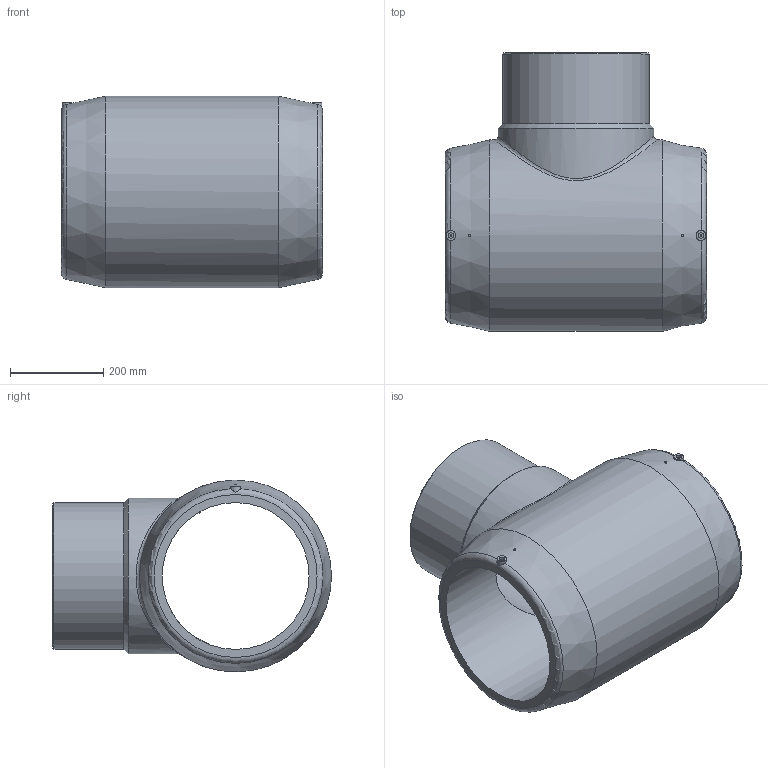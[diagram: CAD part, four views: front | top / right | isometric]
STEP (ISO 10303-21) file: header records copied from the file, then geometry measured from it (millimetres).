
FILE_DESCRIPTION(/* description */ ('Unknown'),/* implementation_level */ '2;1');
FILE_NAME(/* name */ 'TEP315C',/* time_stamp */ '2020-12-11T16:25:50+01:00',/* author */ ('Unknown'),/* organization */ ('Unknown'),/* preprocessor_version */ 'ST-DEVELOPER v16.7',/* originating_system */ 'Solid Edge',/* authorisation */ 'Unknown');
FILE_SCHEMA (('AUTOMOTIVE_DESIGN {1 0 10303 214 3 1 1}'));
Length unit declared in the file: millimetre
Products named in the file (1): TEP315C
Bounding box: 560 x 598 x 411 mm (x, y, z)
Volume: 31676157.5 mm3; surface area: 1640683.2 mm2
Topology: 1 solids, 1 shells, 36 faces, 77 edges, 50 vertices
Faces by surface type: plane 16, cylinder 11, cone 6, torus 2, bspline 1
Full cylindrical faces by diameter (mm): 4 x2, 5 x2, 11.5 x2, 257.8 x1, 315 x2, 334 x1, 411 x1
Entity records: 1404 total; most frequent: CARTESIAN_POINT 730, DIRECTION 136, ORIENTED_EDGE 92, EDGE_LOOP 68, FACE_BOUND 68, AXIS2_PLACEMENT_3D 63, EDGE_CURVE 46, VERTEX_POINT 40
